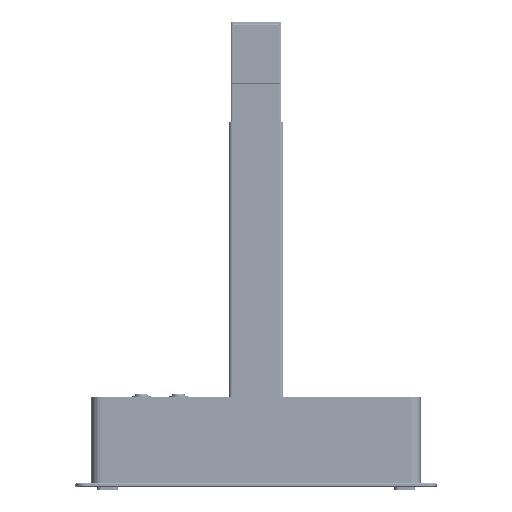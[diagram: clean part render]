
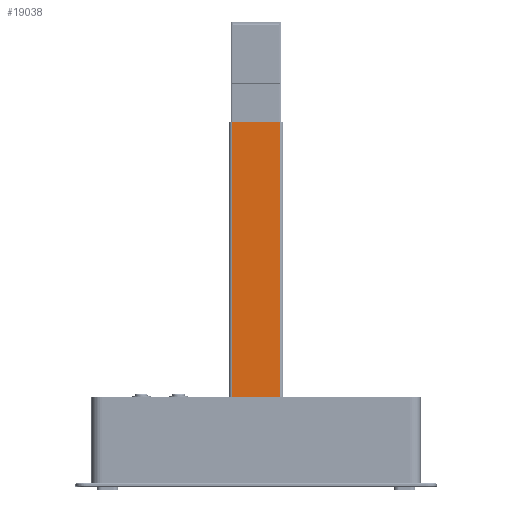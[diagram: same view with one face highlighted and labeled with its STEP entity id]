
A CAD part, top view. The second image highlights one B-rep face of the part: STEP entity #19038.
In plain terms, the highlighted planar face has unit normal (0, 0, 1) as drawn and (0, 1, 0) by its records, which use the part's own axes.
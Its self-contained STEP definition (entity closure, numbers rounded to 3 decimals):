
#18137=DIRECTION('',(0.,0.,-1.));
#18138=VECTOR('',#18137,340.);
#18139=CARTESIAN_POINT('',(-22.5,14.,340.));
#18140=LINE('',#18139,#18138);
#18141=DIRECTION('',(0.,0.,-1.));
#18142=VECTOR('',#18141,340.);
#18143=CARTESIAN_POINT('',(22.5,14.,340.));
#18144=LINE('',#18143,#18142);
#18153=DIRECTION('',(-1.,0.,0.));
#18154=VECTOR('',#18153,45.);
#18155=CARTESIAN_POINT('',(22.5,14.,0.));
#18156=LINE('',#18155,#18154);
#18165=DIRECTION('',(-1.,0.,0.));
#18166=VECTOR('',#18165,45.);
#18167=CARTESIAN_POINT('',(22.5,14.,340.));
#18168=LINE('',#18167,#18166);
#18617=CARTESIAN_POINT('',(-22.5,14.,340.));
#18618=CARTESIAN_POINT('',(-22.5,14.,0.));
#18619=VERTEX_POINT('',#18617);
#18620=VERTEX_POINT('',#18618);
#18629=CARTESIAN_POINT('',(22.5,14.,340.));
#18630=CARTESIAN_POINT('',(22.5,14.,0.));
#18631=VERTEX_POINT('',#18629);
#18632=VERTEX_POINT('',#18630);
#19025=CARTESIAN_POINT('',(25.5,14.,0.));
#19026=DIRECTION('',(0.,1.,0.));
#19027=DIRECTION('',(-1.,0.,0.));
#19028=AXIS2_PLACEMENT_3D('',#19025,#19026,#19027);
#19029=PLANE('',#19028);
#19030=ORIENTED_EDGE('',*,*,#19015,.T.);
#19032=ORIENTED_EDGE('',*,*,#19031,.F.);
#19033=ORIENTED_EDGE('',*,*,#18887,.F.);
#19035=ORIENTED_EDGE('',*,*,#19034,.T.);
#19036=EDGE_LOOP('',(#19030,#19032,#19033,#19035));
#19037=FACE_OUTER_BOUND('',#19036,.F.);
#18887=EDGE_CURVE('',#18631,#18632,#18144,.T.);
#19015=EDGE_CURVE('',#18619,#18620,#18140,.T.);
#19031=EDGE_CURVE('',#18632,#18620,#18156,.T.);
#19034=EDGE_CURVE('',#18631,#18619,#18168,.T.);
#19038=ADVANCED_FACE('',(#19037),#19029,.T.);
